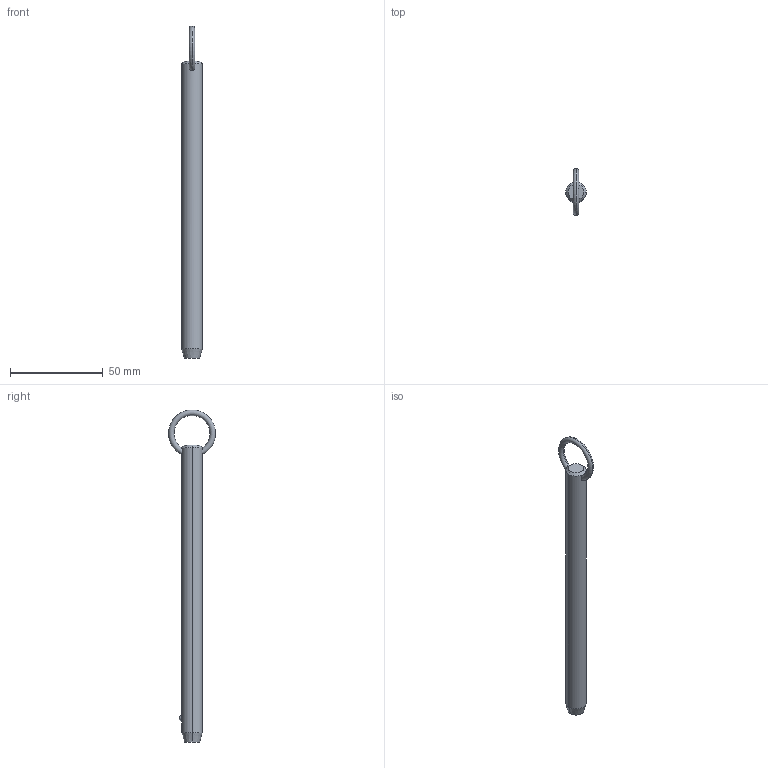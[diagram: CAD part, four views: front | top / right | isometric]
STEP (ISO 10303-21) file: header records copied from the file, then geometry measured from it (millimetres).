
FILE_DESCRIPTION (( 'STEP AP203' ), '1' );
FILE_NAME ('P1250.050-550.step', '2019-07-29T20:39:45', ( '' ), ( '' ), 'SwSTEP 2.0', 'SolidWorks 2017', '' );
FILE_SCHEMA (( 'CONFIG_CONTROL_DESIGN' ));
Length unit declared in the file: millimetre
Products named in the file (1): P1250.050-550
Bounding box: 11.1 x 25.32 x 179.25 mm (x, y, z)
Volume: 15794.8 mm3; surface area: 6242.6 mm2
Topology: 1 solids, 1 shells, 12 faces, 28 edges, 17 vertices
Faces by surface type: cone 4, torus 2, sphere 2, cylinder 2, plane 2
Entity records: 523 total; most frequent: CARTESIAN_POINT 190, DIRECTION 56, ORIENTED_EDGE 48, AXIS2_PLACEMENT_3D 25, EDGE_CURVE 24, EDGE_LOOP 15, VERTEX_POINT 15, FACE_OUTER_BOUND 12
